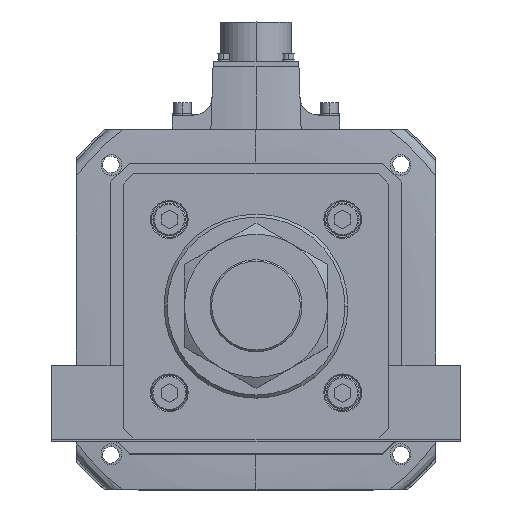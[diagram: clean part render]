
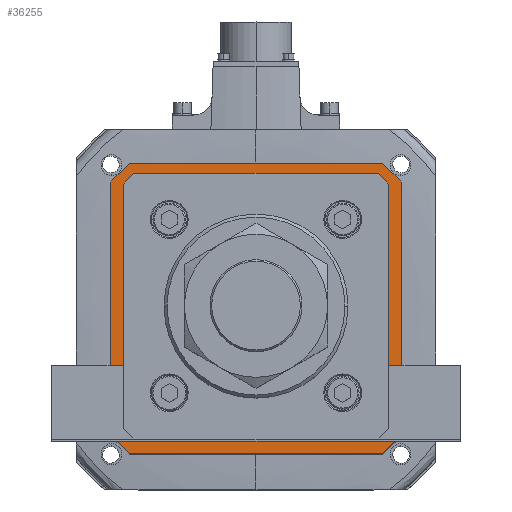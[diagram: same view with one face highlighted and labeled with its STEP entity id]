
A CAD part, top view. The second image highlights one B-rep face of the part: STEP entity #36255.
In plain terms, the highlighted planar face has unit normal (0, 0, 1).
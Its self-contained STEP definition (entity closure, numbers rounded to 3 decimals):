
#248 = ORIENTED_EDGE ( 'NONE', *, *, #20572, .F. ) ;
#426 = DIRECTION ( 'NONE',  ( 0., 0., 1. ) ) ;
#841 = CARTESIAN_POINT ( 'NONE',  ( -62., 71., -142. ) ) ;
#1888 = FACE_BOUND ( 'NONE', #14280, .T. ) ;
#1997 = DIRECTION ( 'NONE',  ( 0., 1., 0. ) ) ;
#2632 = CARTESIAN_POINT ( 'NONE',  ( 71., 62., -142. ) ) ;
#3704 = ORIENTED_EDGE ( 'NONE', *, *, #46788, .T. ) ;
#4029 = CARTESIAN_POINT ( 'NONE',  ( -71., -62., -142. ) ) ;
#5273 = LINE ( 'NONE', #48204, #46672 ) ;
#5599 = DIRECTION ( 'NONE',  ( -0.707, 0.707, 0. ) ) ;
#5775 = LINE ( 'NONE', #25384, #25831 ) ;
#6867 = AXIS2_PLACEMENT_3D ( 'NONE', #51561, #426, #36082 ) ;
#8031 = CARTESIAN_POINT ( 'NONE',  ( -62., -71., -142. ) ) ;
#8364 = ORIENTED_EDGE ( 'NONE', *, *, #16723, .F. ) ;
#10165 = ORIENTED_EDGE ( 'NONE', *, *, #20081, .T. ) ;
#10453 = DIRECTION ( 'NONE',  ( -0.707, -0.707, 0. ) ) ;
#10826 = VERTEX_POINT ( 'NONE', #49131 ) ;
#11221 = VECTOR ( 'NONE', #5599, 1000. ) ;
#11362 = VECTOR ( 'NONE', #45008, 1000. ) ;
#11747 = CARTESIAN_POINT ( 'NONE',  ( 0., 63., -142. ) ) ;
#12023 = VERTEX_POINT ( 'NONE', #24440 ) ;
#12323 = DIRECTION ( 'NONE',  ( -1., 0., 0. ) ) ;
#12812 = VECTOR ( 'NONE', #12323, 1000. ) ;
#13550 = CARTESIAN_POINT ( 'NONE',  ( -63., -58.793, -142. ) ) ;
#14280 = EDGE_LOOP ( 'NONE', ( #37603, #3704, #40143, #10165, #48816, #14733, #45597, #40001 ) ) ;
#14370 = CARTESIAN_POINT ( 'NONE',  ( 71., -62., -142. ) ) ;
#14569 = LINE ( 'NONE', #31171, #11221 ) ;
#14733 = ORIENTED_EDGE ( 'NONE', *, *, #48827, .T. ) ;
#14766 = ORIENTED_EDGE ( 'NONE', *, *, #40503, .F. ) ;
#15219 = DIRECTION ( 'NONE',  ( 1., 0., 0. ) ) ;
#15227 = ORIENTED_EDGE ( 'NONE', *, *, #49881, .F. ) ;
#15871 = CARTESIAN_POINT ( 'NONE',  ( -63., 0., -142. ) ) ;
#16723 = EDGE_CURVE ( 'NONE', #12023, #41771, #49403, .T. ) ;
#17286 = LINE ( 'NONE', #32075, #45985 ) ;
#17676 = DIRECTION ( 'NONE',  ( -1., 0., 0. ) ) ;
#18831 = EDGE_CURVE ( 'NONE', #41771, #20278, #54744, .T. ) ;
#19359 = VERTEX_POINT ( 'NONE', #47490 ) ;
#19498 = EDGE_CURVE ( 'NONE', #34116, #20767, #5273, .T. ) ;
#19839 = VECTOR ( 'NONE', #10453, 1000. ) ;
#20081 = EDGE_CURVE ( 'NONE', #19359, #35165, #14569, .T. ) ;
#20192 = EDGE_CURVE ( 'NONE', #35165, #41251, #47274, .T. ) ;
#20278 = VERTEX_POINT ( 'NONE', #8031 ) ;
#20466 = CARTESIAN_POINT ( 'NONE',  ( 62., 71., -142. ) ) ;
#20572 = EDGE_CURVE ( 'NONE', #48119, #44325, #53179, .T. ) ;
#20767 = VERTEX_POINT ( 'NONE', #22096 ) ;
#20996 = LINE ( 'NONE', #22411, #51667 ) ;
#21703 = PLANE ( 'NONE',  #6867 ) ;
#22096 = CARTESIAN_POINT ( 'NONE',  ( 63., 58.793, -142. ) ) ;
#22411 = CARTESIAN_POINT ( 'NONE',  ( -60.896, 60.896, -142. ) ) ;
#24279 = CARTESIAN_POINT ( 'NONE',  ( 58.793, -63., -142. ) ) ;
#24423 = VERTEX_POINT ( 'NONE', #43465 ) ;
#24440 = CARTESIAN_POINT ( 'NONE',  ( 71., -62., -142. ) ) ;
#24860 = CARTESIAN_POINT ( 'NONE',  ( -63., 58.793, -142. ) ) ;
#25384 = CARTESIAN_POINT ( 'NONE',  ( 71., 62., -142. ) ) ;
#25473 = EDGE_LOOP ( 'NONE', ( #14766, #34835, #248, #15227, #31586, #8364, #27163, #36893 ) ) ;
#25831 = VECTOR ( 'NONE', #55199, 1000. ) ;
#26011 = CARTESIAN_POINT ( 'NONE',  ( -62., -71., -142. ) ) ;
#27163 = ORIENTED_EDGE ( 'NONE', *, *, #31046, .F. ) ;
#27977 = DIRECTION ( 'NONE',  ( 0.707, 0.707, 0. ) ) ;
#28081 = VECTOR ( 'NONE', #51547, 1000. ) ;
#28287 = LINE ( 'NONE', #31664, #44968 ) ;
#28686 = DIRECTION ( 'NONE',  ( 0., -1., 0. ) ) ;
#29708 = EDGE_CURVE ( 'NONE', #44325, #42106, #17286, .T. ) ;
#29777 = VERTEX_POINT ( 'NONE', #20466 ) ;
#30761 = LINE ( 'NONE', #46544, #42762 ) ;
#31046 = EDGE_CURVE ( 'NONE', #51528, #12023, #5775, .T. ) ;
#31171 = CARTESIAN_POINT ( 'NONE',  ( -60.896, -60.896, -142. ) ) ;
#31360 = EDGE_CURVE ( 'NONE', #20767, #10826, #47179, .T. ) ;
#31586 = ORIENTED_EDGE ( 'NONE', *, *, #18831, .F. ) ;
#31664 = CARTESIAN_POINT ( 'NONE',  ( 62., 71., -142. ) ) ;
#32075 = CARTESIAN_POINT ( 'NONE',  ( -62., 71., -142. ) ) ;
#32209 = LINE ( 'NONE', #54869, #12812 ) ;
#32644 = LINE ( 'NONE', #11747, #44677 ) ;
#34116 = VERTEX_POINT ( 'NONE', #53386 ) ;
#34835 = ORIENTED_EDGE ( 'NONE', *, *, #29708, .F. ) ;
#35165 = VERTEX_POINT ( 'NONE', #13550 ) ;
#35843 = VECTOR ( 'NONE', #28686, 1000. ) ;
#36082 = DIRECTION ( 'NONE',  ( 1., 0., 0. ) ) ;
#36255 = ADVANCED_FACE ( 'NONE', ( #1888, #46616 ), #21703, .T. ) ;
#36893 = ORIENTED_EDGE ( 'NONE', *, *, #40907, .F. ) ;
#37098 = CARTESIAN_POINT ( 'NONE',  ( 63., 0., -142. ) ) ;
#37603 = ORIENTED_EDGE ( 'NONE', *, *, #31360, .T. ) ;
#39724 = CARTESIAN_POINT ( 'NONE',  ( -71., 62., -142. ) ) ;
#40001 = ORIENTED_EDGE ( 'NONE', *, *, #19498, .T. ) ;
#40143 = ORIENTED_EDGE ( 'NONE', *, *, #45508, .T. ) ;
#40503 = EDGE_CURVE ( 'NONE', #42106, #29777, #28287, .T. ) ;
#40907 = EDGE_CURVE ( 'NONE', #29777, #51528, #30761, .T. ) ;
#41251 = VERTEX_POINT ( 'NONE', #24860 ) ;
#41771 = VERTEX_POINT ( 'NONE', #41947 ) ;
#41809 = DIRECTION ( 'NONE',  ( 1., 0., 0. ) ) ;
#41947 = CARTESIAN_POINT ( 'NONE',  ( 62., -71., -142. ) ) ;
#42106 = VERTEX_POINT ( 'NONE', #841 ) ;
#42625 = DIRECTION ( 'NONE',  ( 0.707, -0.707, 0. ) ) ;
#42762 = VECTOR ( 'NONE', #42625, 1000. ) ;
#43212 = VECTOR ( 'NONE', #1997, 1000. ) ;
#43269 = CARTESIAN_POINT ( 'NONE',  ( 62., -71., -142. ) ) ;
#43465 = CARTESIAN_POINT ( 'NONE',  ( -58.793, 63., -142. ) ) ;
#44103 = LINE ( 'NONE', #44655, #11362 ) ;
#44325 = VERTEX_POINT ( 'NONE', #48884 ) ;
#44655 = CARTESIAN_POINT ( 'NONE',  ( 60.896, -60.896, -142. ) ) ;
#44677 = VECTOR ( 'NONE', #41809, 1000. ) ;
#44765 = LINE ( 'NONE', #26011, #28081 ) ;
#44968 = VECTOR ( 'NONE', #15219, 1000. ) ;
#45008 = DIRECTION ( 'NONE',  ( -0.707, -0.707, 0. ) ) ;
#45508 = EDGE_CURVE ( 'NONE', #47409, #19359, #32209, .T. ) ;
#45597 = ORIENTED_EDGE ( 'NONE', *, *, #47572, .T. ) ;
#45985 = VECTOR ( 'NONE', #27977, 1000. ) ;
#46080 = DIRECTION ( 'NONE',  ( 0., 1., 0. ) ) ;
#46082 = VECTOR ( 'NONE', #17676, 1000. ) ;
#46544 = CARTESIAN_POINT ( 'NONE',  ( 71., 62., -142. ) ) ;
#46616 = FACE_OUTER_BOUND ( 'NONE', #25473, .T. ) ;
#46672 = VECTOR ( 'NONE', #48386, 1000. ) ;
#46788 = EDGE_CURVE ( 'NONE', #10826, #47409, #44103, .T. ) ;
#47179 = LINE ( 'NONE', #37098, #35843 ) ;
#47274 = LINE ( 'NONE', #15871, #54583 ) ;
#47409 = VERTEX_POINT ( 'NONE', #24279 ) ;
#47490 = CARTESIAN_POINT ( 'NONE',  ( -58.793, -63., -142. ) ) ;
#47572 = EDGE_CURVE ( 'NONE', #24423, #34116, #32644, .T. ) ;
#48119 = VERTEX_POINT ( 'NONE', #4029 ) ;
#48204 = CARTESIAN_POINT ( 'NONE',  ( 60.896, 60.896, -142. ) ) ;
#48386 = DIRECTION ( 'NONE',  ( 0.707, -0.707, 0. ) ) ;
#48816 = ORIENTED_EDGE ( 'NONE', *, *, #20192, .T. ) ;
#48827 = EDGE_CURVE ( 'NONE', #41251, #24423, #20996, .T. ) ;
#48884 = CARTESIAN_POINT ( 'NONE',  ( -71., 62., -142. ) ) ;
#49131 = CARTESIAN_POINT ( 'NONE',  ( 63., -58.793, -142. ) ) ;
#49403 = LINE ( 'NONE', #14370, #19839 ) ;
#49881 = EDGE_CURVE ( 'NONE', #20278, #48119, #44765, .T. ) ;
#51523 = DIRECTION ( 'NONE',  ( 0.707, 0.707, 0. ) ) ;
#51528 = VERTEX_POINT ( 'NONE', #2632 ) ;
#51547 = DIRECTION ( 'NONE',  ( -0.707, 0.707, 0. ) ) ;
#51561 = CARTESIAN_POINT ( 'NONE',  ( 0., 0., -142. ) ) ;
#51667 = VECTOR ( 'NONE', #51523, 1000. ) ;
#53179 = LINE ( 'NONE', #39724, #43212 ) ;
#53386 = CARTESIAN_POINT ( 'NONE',  ( 58.793, 63., -142. ) ) ;
#54583 = VECTOR ( 'NONE', #46080, 1000. ) ;
#54744 = LINE ( 'NONE', #43269, #46082 ) ;
#54869 = CARTESIAN_POINT ( 'NONE',  ( 0., -63., -142. ) ) ;
#55199 = DIRECTION ( 'NONE',  ( 0., -1., 0. ) ) ;
